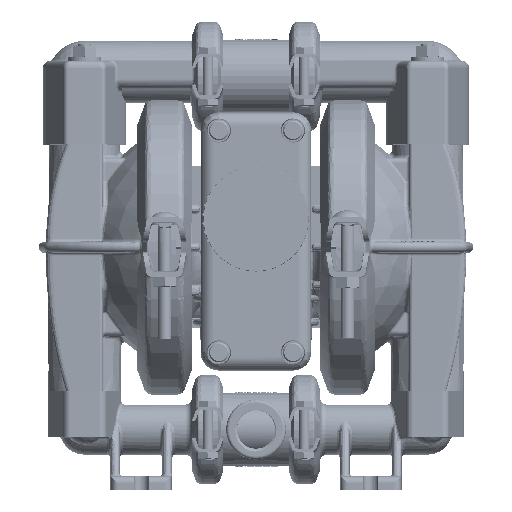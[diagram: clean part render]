
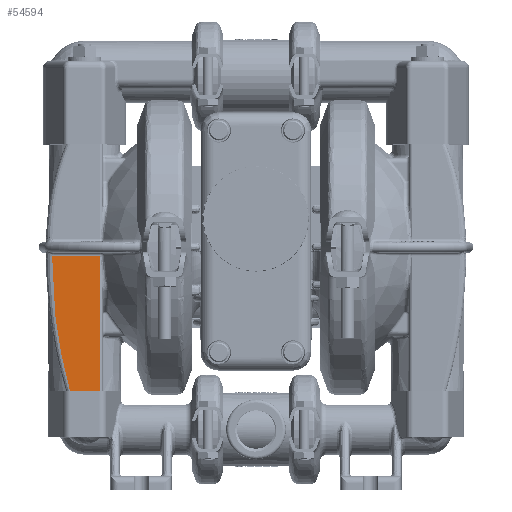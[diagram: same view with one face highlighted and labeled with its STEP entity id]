
A CAD part, top view. The second image highlights one B-rep face of the part: STEP entity #54594.
In plain terms, the highlighted planar face has unit normal (0, -0.018, 1).
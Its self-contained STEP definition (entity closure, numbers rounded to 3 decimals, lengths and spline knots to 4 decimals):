
#12205 = B_SPLINE_CURVE_WITH_KNOTS ( 'NONE', 3,
 ( #239768, #53468, #319625, #462498, #355959, #278494, #21923 ),
 .UNSPECIFIED., .F., .F.,
 ( 4, 1, 1, 1, 4 ),
 ( 0., 0.25, 0.5, 0.75, 1. ),
 .UNSPECIFIED. ) ;
#19084 = ORIENTED_EDGE ( 'NONE', *, *, #205370, .F. ) ;
#21923 = CARTESIAN_POINT ( 'NONE',  ( -3.8267, -0.1554, 1.2473 ) ) ;
#23257 = DIRECTION ( 'NONE',  ( -1., 0., 0. ) ) ;
#29902 = CARTESIAN_POINT ( 'NONE',  ( -3.6492, -2.0338, 1.2145 ) ) ;
#34676 = CARTESIAN_POINT ( 'NONE',  ( -3.8257, -0.4254, 1.2426 ) ) ;
#37094 = CARTESIAN_POINT ( 'NONE',  ( -3.822, -0.5604, 1.2402 ) ) ;
#45991 = VECTOR ( 'NONE', #23257, 39.3701 ) ;
#46910 = EDGE_CURVE ( 'NONE', #311156, #461804, #417819, .T. ) ;
#53468 = CARTESIAN_POINT ( 'NONE',  ( -3.7859, -0.159, 1.2472 ) ) ;
#54594 = ADVANCED_FACE ( 'NONE', ( #400216 ), #247730, .T. ) ;
#63830 = CARTESIAN_POINT ( 'NONE',  ( -2.877, 0., 1.25 ) ) ;
#73282 = EDGE_CURVE ( 'NONE', #272592, #392278, #207172, .T. ) ;
#73397 = CARTESIAN_POINT ( 'NONE',  ( -3.6985, -1.7683, 1.2191 ) ) ;
#93078 = VECTOR ( 'NONE', #214441, 39.3701 ) ;
#97992 = CARTESIAN_POINT ( 'NONE',  ( -2.937, -2.69, 1.203 ) ) ;
#102570 = CARTESIAN_POINT ( 'NONE',  ( -3.8267, -0.1554, 1.2473 ) ) ;
#112081 = CARTESIAN_POINT ( 'NONE',  ( -3.7871, -1.0992, 1.2308 ) ) ;
#134249 = LINE ( 'NONE', #97992, #268060 ) ;
#141201 = CARTESIAN_POINT ( 'NONE',  ( -3.8271, -0.2004, 1.2465 ) ) ;
#151966 = EDGE_CURVE ( 'NONE', #272592, #440625, #330613, .T. ) ;
#153546 = ORIENTED_EDGE ( 'NONE', *, *, #73282, .T. ) ;
#177502 = CARTESIAN_POINT ( 'NONE',  ( -3.5604, -2.429, 1.2076 ) ) ;
#184647 = CARTESIAN_POINT ( 'NONE',  ( -3.4912, -2.69, 1.203 ) ) ;
#205370 = EDGE_CURVE ( 'NONE', #440625, #461804, #134249, .T. ) ;
#207172 = LINE ( 'NONE', #354899, #45991 ) ;
#213860 = CARTESIAN_POINT ( 'NONE',  ( -3.7202, -1.6351, 1.2215 ) ) ;
#214441 = DIRECTION ( 'NONE',  ( 0., -1., -0.017 ) ) ;
#216222 = CARTESIAN_POINT ( 'NONE',  ( -3.8274, -0.2904, 1.2449 ) ) ;
#223299 = ORIENTED_EDGE ( 'NONE', *, *, #293434, .T. ) ;
#239768 = CARTESIAN_POINT ( 'NONE',  ( -3.782, -0.159, 1.2472 ) ) ;
#247730 = PLANE ( 'NONE',  #335746 ) ;
#249177 = ORIENTED_EDGE ( 'NONE', *, *, #46910, .T. ) ;
#254906 = CARTESIAN_POINT ( 'NONE',  ( -3.5269, -2.5598, 1.2053 ) ) ;
#257307 = CARTESIAN_POINT ( 'NONE',  ( -3.8085, -0.8301, 1.2355 ) ) ;
#259716 = CARTESIAN_POINT ( 'NONE',  ( -3.7734, -1.2336, 1.2285 ) ) ;
#268060 = VECTOR ( 'NONE', #281901, 39.3701 ) ;
#272592 = VERTEX_POINT ( 'NONE', #426423 ) ;
#278494 = CARTESIAN_POINT ( 'NONE',  ( -3.8231, -0.156, 1.2473 ) ) ;
#281901 = DIRECTION ( 'NONE',  ( -1., 0., 0. ) ) ;
#286035 = CARTESIAN_POINT ( 'NONE',  ( -3.782, -0.159, 1.2472 ) ) ;
#288897 = CARTESIAN_POINT ( 'NONE',  ( -3.7988, -0.9647, 1.2332 ) ) ;
#293434 = EDGE_CURVE ( 'NONE', #392278, #311156, #12205, .T. ) ;
#311156 = VERTEX_POINT ( 'NONE', #333145 ) ;
#319625 = CARTESIAN_POINT ( 'NONE',  ( -3.7935, -0.1588, 1.2472 ) ) ;
#330613 = LINE ( 'NONE', #478293, #93078 ) ;
#333145 = CARTESIAN_POINT ( 'NONE',  ( -3.8267, -0.1554, 1.2473 ) ) ;
#335746 = AXIS2_PLACEMENT_3D ( 'NONE', #63830, #475244, #431808 ) ;
#354493 = EDGE_LOOP ( 'NONE', ( #402704, #153546, #223299, #249177, #19084 ) ) ;
#354899 = CARTESIAN_POINT ( 'NONE',  ( -2.937, -0.159, 1.2472 ) ) ;
#355959 = CARTESIAN_POINT ( 'NONE',  ( -3.8159, -0.157, 1.2473 ) ) ;
#361577 = CARTESIAN_POINT ( 'NONE',  ( -3.6748, -1.9013, 1.2168 ) ) ;
#366349 = CARTESIAN_POINT ( 'NONE',  ( -3.7399, -1.5015, 1.2238 ) ) ;
#368744 = CARTESIAN_POINT ( 'NONE',  ( -3.8163, -0.6953, 1.2379 ) ) ;
#391522 = CARTESIAN_POINT ( 'NONE',  ( -2.937, -2.69, 1.203 ) ) ;
#392278 = VERTEX_POINT ( 'NONE', #286035 ) ;
#400216 = FACE_OUTER_BOUND ( 'NONE', #354493, .T. ) ;
#400271 = CARTESIAN_POINT ( 'NONE',  ( -3.6216, -2.166, 1.2122 ) ) ;
#402704 = ORIENTED_EDGE ( 'NONE', *, *, #151966, .F. ) ;
#407434 = CARTESIAN_POINT ( 'NONE',  ( -3.5033, -2.6467, 1.2038 ) ) ;
#417819 = B_SPLINE_CURVE_WITH_KNOTS ( 'NONE', 3,
 ( #102570, #141201, #216222, #34676, #37094, #368744, #257307, #288897, #112081, #259716, #434226, #366349, #213860, #73397, #361577, #29902, #400271, #472916, #177502, #254906, #407434, #184647 ),
 .UNSPECIFIED., .F., .F.,
 ( 4, 1, 1, 1, 1, 1, 1, 1, 1, 1, 1, 1, 1, 1, 1, 1, 1, 1, 1, 4 ),
 ( 0., 0.0526, 0.1053, 0.1579, 0.2105, 0.2632, 0.3158, 0.3684, 0.4211, 0.4737, 0.5263, 0.5789, 0.6316, 0.6842, 0.7368, 0.7895, 0.8421, 0.8947, 0.9474, 1. ),
 .UNSPECIFIED. ) ;
#426423 = CARTESIAN_POINT ( 'NONE',  ( -2.937, -0.159, 1.2472 ) ) ;
#431808 = DIRECTION ( 'NONE',  ( -1., 0., 0. ) ) ;
#434226 = CARTESIAN_POINT ( 'NONE',  ( -3.7576, -1.3677, 1.2261 ) ) ;
#440386 = CARTESIAN_POINT ( 'NONE',  ( -3.4912, -2.69, 1.203 ) ) ;
#440625 = VERTEX_POINT ( 'NONE', #391522 ) ;
#461804 = VERTEX_POINT ( 'NONE', #440386 ) ;
#462498 = CARTESIAN_POINT ( 'NONE',  ( -3.8048, -0.1581, 1.2472 ) ) ;
#472916 = CARTESIAN_POINT ( 'NONE',  ( -3.592, -2.2977, 1.2099 ) ) ;
#475244 = DIRECTION ( 'NONE',  ( 0., -0.017, 1. ) ) ;
#478293 = CARTESIAN_POINT ( 'NONE',  ( -2.937, -0.159, 1.2472 ) ) ;
